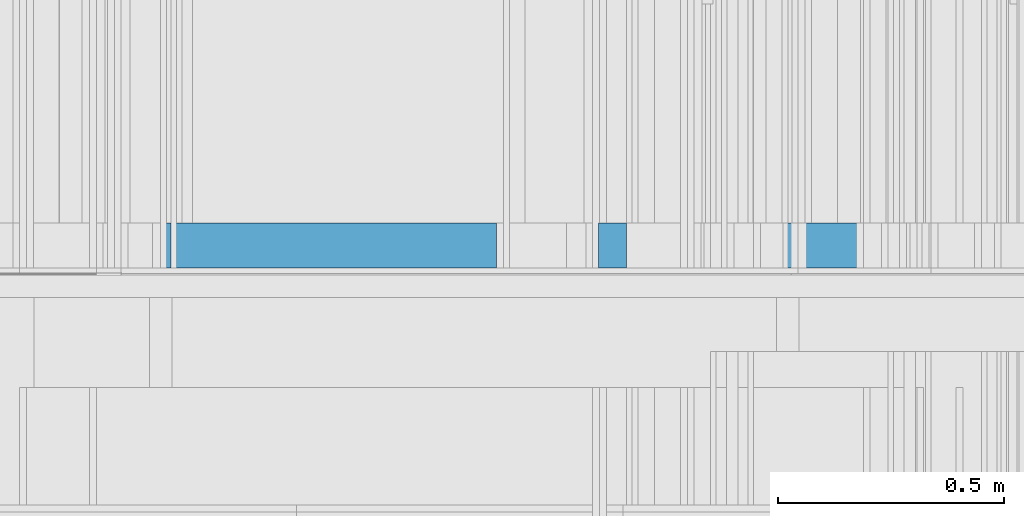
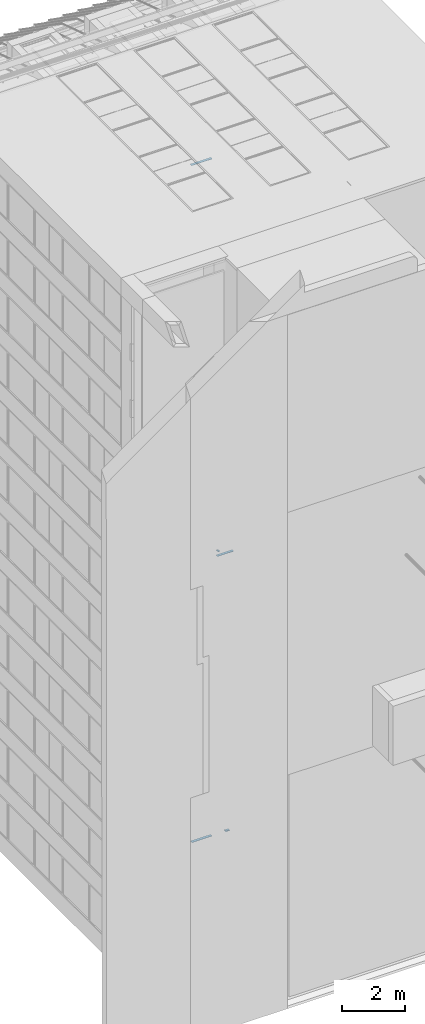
# One storey, part 201 of 583: 5 building element parts, 4 elements without a shape of their own.
"""IFC2X3 building model written with IfcOpenShell, lengths in metres."""

from ifc_helpers import new_model, entity, si_unit, converted_unit, derived_unit, money_unit, direction, frame, frame_2d, origin_with_axes, place, context, subcontext, project, spatial, polyline, rectangle, outline, extrude, material, type_object, element, aggregate, save


model = new_model("IFC2X3")

# Units and contexts
model_context = context("Model", 3, precision=1e-05, world=origin_with_axes(), true_north=direction((0.0, 1.0)))
body_context = subcontext(model_context, "Body", "Model", "MODEL_VIEW", scale=1.0)
ifc_project = project(units=[si_unit("LENGTHUNIT", "METRE"), si_unit("AREAUNIT", "SQUARE_METRE"), si_unit("VOLUMEUNIT", "CUBIC_METRE"), si_unit("ABSORBEDDOSEUNIT", "GRAY"), si_unit("AMOUNTOFSUBSTANCEUNIT", "MOLE"), si_unit("DOSEEQUIVALENTUNIT", "SIEVERT"), si_unit("ELECTRICCAPACITANCEUNIT", "FARAD"), si_unit("ELECTRICCHARGEUNIT", "COULOMB"), si_unit("ELECTRICCONDUCTANCEUNIT", "SIEMENS"), si_unit("ELECTRICCURRENTUNIT", "AMPERE"), si_unit("ELECTRICRESISTANCEUNIT", "OHM"), si_unit("ELECTRICVOLTAGEUNIT", "VOLT"), si_unit("ENERGYUNIT", "JOULE"), si_unit("FORCEUNIT", "NEWTON"), si_unit("FREQUENCYUNIT", "HERTZ"), si_unit("ILLUMINANCEUNIT", "LUX"), si_unit("INDUCTANCEUNIT", "HENRY"), si_unit("LUMINOUSFLUXUNIT", "LUMEN"), si_unit("LUMINOUSINTENSITYUNIT", "CANDELA"), si_unit("MAGNETICFLUXDENSITYUNIT", "TESLA"), si_unit("MAGNETICFLUXUNIT", "WEBER"), si_unit("MASSUNIT", "GRAM"), converted_unit("PLANEANGLEUNIT", "degree", entity("IfcReal", 0.0174532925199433), si_unit("PLANEANGLEUNIT", "RADIAN"), dimensions=[0, 0, 0, 0, 0, 0, 0]), si_unit("POWERUNIT", "WATT"), si_unit("PRESSUREUNIT", "PASCAL"), si_unit("RADIOACTIVITYUNIT", "BECQUEREL"), si_unit("SOLIDANGLEUNIT", "STERADIAN"), si_unit("THERMODYNAMICTEMPERATUREUNIT", "KELVIN"), si_unit("TIMEUNIT", "SECOND"), derived_unit("ACCELERATIONUNIT", [(si_unit("LENGTHUNIT", "METRE"), 1), (si_unit("TIMEUNIT", "SECOND"), -2)]), derived_unit("ANGULARVELOCITYUNIT", [(converted_unit("PLANEANGLEUNIT", "degree", entity("IfcReal", 0.0174532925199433), si_unit("PLANEANGLEUNIT", "RADIAN"), dimensions=[0, 0, 0, 0, 0, 0, 0]), 1), (si_unit("TIMEUNIT", "SECOND"), -1)]), derived_unit("CURVATUREUNIT", [(converted_unit("PLANEANGLEUNIT", "degree", entity("IfcReal", 0.0174532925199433), si_unit("PLANEANGLEUNIT", "RADIAN"), dimensions=[0, 0, 0, 0, 0, 0, 0]), 1), (si_unit("LENGTHUNIT", "METRE"), -1)]), derived_unit("DYNAMICVISCOSITYUNIT", [(si_unit("PRESSUREUNIT", "PASCAL"), 1), (si_unit("TIMEUNIT", "SECOND"), 1)]), derived_unit("HEATFLUXDENSITYUNIT", [(si_unit("POWERUNIT", "WATT"), 1), (si_unit("LENGTHUNIT", "METRE"), -2)]), derived_unit("HEATINGVALUEUNIT", [(si_unit("ENERGYUNIT", "JOULE"), 1), (si_unit("MASSUNIT", "GRAM"), -1)]), derived_unit("INTEGERCOUNTRATEUNIT", [(si_unit("TIMEUNIT", "SECOND"), -1)]), derived_unit("IONCONCENTRATIONUNIT", [(si_unit("MASSUNIT", "GRAM"), 1), (si_unit("VOLUMEUNIT", "CUBIC_METRE"), -1)]), derived_unit("ISOTHERMALMOISTURECAPACITYUNIT", [(si_unit("VOLUMEUNIT", "CUBIC_METRE"), 1), (si_unit("MASSUNIT", "GRAM"), -1)]), derived_unit("KINEMATICVISCOSITYUNIT", [(si_unit("AREAUNIT", "SQUARE_METRE"), 1), (si_unit("TIMEUNIT", "SECOND"), -1)]), derived_unit("LINEARFORCEUNIT", [(si_unit("FORCEUNIT", "NEWTON"), 1), (si_unit("LENGTHUNIT", "METRE"), -1)]), derived_unit("LINEARMOMENTUNIT", [(si_unit("FORCEUNIT", "NEWTON"), 1), (si_unit("LENGTHUNIT", "METRE"), -1)]), derived_unit("LINEARSTIFFNESSUNIT", [(si_unit("FORCEUNIT", "NEWTON"), 1), (si_unit("LENGTHUNIT", "METRE"), -1)]), derived_unit("LINEARVELOCITYUNIT", [(si_unit("LENGTHUNIT", "METRE"), 1), (si_unit("TIMEUNIT", "SECOND"), -1)]), derived_unit("LUMINOUSINTENSITYDISTRIBUTIONUNIT", [(si_unit("LUMINOUSINTENSITYUNIT", "CANDELA"), 1), (si_unit("LUMINOUSFLUXUNIT", "LUMEN"), -1)]), derived_unit("MASSDENSITYUNIT", [(si_unit("MASSUNIT", "GRAM"), 1), (si_unit("VOLUMEUNIT", "CUBIC_METRE"), -1)]), derived_unit("MASSFLOWRATEUNIT", [(si_unit("MASSUNIT", "GRAM"), 1), (si_unit("TIMEUNIT", "SECOND"), -1)]), derived_unit("MASSPERLENGTHUNIT", [(si_unit("MASSUNIT", "GRAM"), 1), (si_unit("LENGTHUNIT", "METRE"), -1)]), derived_unit("MODULUSOFELASTICITYUNIT", [(si_unit("FORCEUNIT", "NEWTON"), 1), (si_unit("AREAUNIT", "SQUARE_METRE"), -1)]), derived_unit("MODULUSOFLINEARSUBGRADEREACTIONUNIT", [(si_unit("FORCEUNIT", "NEWTON"), 1), (si_unit("LENGTHUNIT", "METRE"), -2)]), derived_unit("MODULUSOFROTATIONALSUBGRADEREACTIONUNIT", [(si_unit("FORCEUNIT", "NEWTON"), 1), (si_unit("LENGTHUNIT", "METRE"), 1)]), derived_unit("MODULUSOFSUBGRADEREACTIONUNIT", [(si_unit("FORCEUNIT", "NEWTON"), 1), (si_unit("VOLUMEUNIT", "CUBIC_METRE"), -1)]), derived_unit("MOISTUREDIFFUSIVITYUNIT", [(si_unit("VOLUMEUNIT", "CUBIC_METRE"), 1), (si_unit("TIMEUNIT", "SECOND"), -1)]), derived_unit("MOLECULARWEIGHTUNIT", [(si_unit("MASSUNIT", "GRAM"), 1), (si_unit("AMOUNTOFSUBSTANCEUNIT", "MOLE"), -1)]), derived_unit("PLANARFORCEUNIT", [(si_unit("FORCEUNIT", "NEWTON"), 1), (si_unit("LENGTHUNIT", "METRE"), -2)]), derived_unit("ROTATIONALFREQUENCYUNIT", [(si_unit("TIMEUNIT", "SECOND"), -1)]), derived_unit("ROTATIONALMASSUNIT", [(si_unit("MASSUNIT", "GRAM"), 1), (si_unit("LENGTHUNIT", "METRE"), 2)]), derived_unit("ROTATIONALSTIFFNESSUNIT", [(si_unit("FORCEUNIT", "NEWTON"), 1), (si_unit("LENGTHUNIT", "METRE"), 1), (converted_unit("PLANEANGLEUNIT", "degree", entity("IfcReal", 0.0174532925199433), si_unit("PLANEANGLEUNIT", "RADIAN"), dimensions=[0, 0, 0, 0, 0, 0, 0]), -1)]), derived_unit("SECTIONAREAINTEGRALUNIT", [(si_unit("LENGTHUNIT", "METRE"), 5)]), derived_unit("SECTIONMODULUSUNIT", [(si_unit("LENGTHUNIT", "METRE"), 3)]), derived_unit("SHEARMODULUSUNIT", [(si_unit("FORCEUNIT", "NEWTON"), 1), (si_unit("AREAUNIT", "SQUARE_METRE"), -1)]), derived_unit("SOUNDPOWERUNIT", [(si_unit("ENERGYUNIT", "JOULE"), 1), (si_unit("TIMEUNIT", "SECOND"), -1)]), derived_unit("SPECIFICHEATCAPACITYUNIT", [(si_unit("FORCEUNIT", "NEWTON"), 1), (si_unit("MASSUNIT", "GRAM"), -1), (si_unit("THERMODYNAMICTEMPERATUREUNIT", "KELVIN"), -1)]), derived_unit("TEMPERATUREGRADIENTUNIT", [(si_unit("THERMODYNAMICTEMPERATUREUNIT", "KELVIN"), 1), (si_unit("LENGTHUNIT", "METRE"), -1)]), derived_unit("THERMALADMITTANCEUNIT", [(si_unit("POWERUNIT", "WATT"), 1), (si_unit("AREAUNIT", "SQUARE_METRE"), -1), (si_unit("THERMODYNAMICTEMPERATUREUNIT", "KELVIN"), -1)]), derived_unit("THERMALCONDUCTANCEUNIT", [(si_unit("POWERUNIT", "WATT"), 1), (si_unit("LENGTHUNIT", "METRE"), -1), (si_unit("THERMODYNAMICTEMPERATUREUNIT", "KELVIN"), -1)]), derived_unit("THERMALEXPANSIONCOEFFICIENTUNIT", [(si_unit("THERMODYNAMICTEMPERATUREUNIT", "KELVIN"), -1)]), derived_unit("THERMALRESISTANCEUNIT", [(si_unit("AREAUNIT", "SQUARE_METRE"), 1), (si_unit("POWERUNIT", "WATT"), -1)]), derived_unit("THERMALTRANSMITTANCEUNIT", [(si_unit("POWERUNIT", "WATT"), 1), (si_unit("AREAUNIT", "SQUARE_METRE"), -1), (si_unit("THERMODYNAMICTEMPERATUREUNIT", "KELVIN"), -1)]), derived_unit("TORQUEUNIT", [(si_unit("FORCEUNIT", "NEWTON"), 1), (si_unit("LENGTHUNIT", "METRE"), 1)]), derived_unit("VAPORPERMEABILITYUNIT", [(si_unit("MASSUNIT", "GRAM"), 1), (si_unit("TIMEUNIT", "SECOND"), -1)]), derived_unit("VOLUMETRICFLOWRATEUNIT", [(si_unit("VOLUMEUNIT", "CUBIC_METRE"), 1), (si_unit("TIMEUNIT", "SECOND"), -1)]), derived_unit("WARPINGCONSTANTUNIT", [(si_unit("LENGTHUNIT", "METRE"), 6)]), derived_unit("WARPINGMOMENTUNIT", [(si_unit("FORCEUNIT", "NEWTON"), 1), (si_unit("LENGTHUNIT", "METRE"), 2)]), money_unit("GBP")], contexts=[model_context])

# Site, building, storey
site_placement = place(None, origin_with_axes())
site = spatial("IfcSite", under=ifc_project, at=site_placement, Name="Site", CompositionType="ELEMENT")
building_placement = place(site_placement, origin_with_axes())
building = spatial("IfcBuilding", under=site, at=building_placement, Name="Building01", CompositionType="ELEMENT")
storey_placement = place(building_placement, frame((0.0, 0.0, 20.78), z_axis=(0.0, 0.0, 1.0), x_axis=(1.0, 0.0, 0.0)))
storey = spatial("IfcBuildingStorey", under=building, at=storey_placement, Name="RL", CompositionType="ELEMENT", Elevation=20.78)

# Wall, building element parts
wall_type_1 = type_object("IfcWallType", Name="SHE_A-Walls_Type03a_BlockworkWall_170mm", PredefinedType="NOTDEFINED")
wall_1_placement = place(storey_placement, frame((6.263, 8.64, -9.635), z_axis=(0.0, 1.0, 0.0), x_axis=(1.0, 0.0, 0.0)))
wall_1 = element("IfcWall", 1, at=wall_1_placement, inside=storey, type_object=wall_type_1, Name="4B", ObjectType="SHE_A-Walls_Type03a_BlockworkWall_170mm")
ifc_material = material(Name="A_BSUK_Walls_Timber")
placement = place(wall_1_placement, origin_with_axes())
building_element_part_1 = element("IfcBuildingElementPart", 2, at=placement, material=ifc_material, Name="2", context=body_context, shape_type="SweptSolid", body=[
    extrude(outline(polyline([(0.572, 0.03), (-0.013, 0.03), (-0.013, 0.015), (0.587, 0.015), (0.572, 0.03)])), frame((0.0, 0.0, 0.015), z_axis=(0.0, 0.0, 1.0), x_axis=(1.0, 0.0, 0.0)), (0.0, 0.0, 1.0), 0.1),
])
building_element_part_2 = element("IfcBuildingElementPart", 3, at=placement, material=ifc_material, Name="5", context=body_context, shape_type="SweptSolid", body=[
    extrude(rectangle(XDim=0.062, YDim=0.015, at=frame_2d((0.031, -0.1625), x_axis=(-1.0, 0.0))), frame((0.0, 0.0, 0.015), z_axis=(0.0, 0.0, 1.0), x_axis=(1.0, 0.0, 0.0)), (0.0, 0.0, 1.0), 0.1),
])
aggregate(wall_1, [building_element_part_1, building_element_part_2])

# Wall, building element part
wall_type_2 = type_object("IfcWallType", Name="SHE_A-Walls_Type06d_ExternalWallInsulation_48mm", PredefinedType="NOTDEFINED")
wall_2_placement = place(storey_placement, frame((6.64418, 8.64, -20.51), z_axis=(0.0, 1.0, 0.0), x_axis=(-1.0, 0.0, 0.0)))
wall_2 = element("IfcWall", 4, at=wall_2_placement, inside=storey, type_object=wall_type_2, Name="6D", ObjectType="SHE_A-Walls_Type06d_ExternalWallInsulation_48mm")
building_element_part_3_placement = place(wall_2_placement, origin_with_axes())
building_element_part_3 = element("IfcBuildingElementPart", 5, at=building_element_part_3_placement, material=ifc_material, Name="2", context=body_context, shape_type="SweptSolid", body=[
    extrude(outline(polyline([(0.08118, 0.063), (-0.048, 0.063), (-0.048, 0.048), (0.09618, 0.048), (0.08118, 0.063)])), frame((0.0, 0.0, 0.015), z_axis=(0.0, 0.0, 1.0), x_axis=(1.0, 0.0, 0.0)), (0.0, 0.0, 1.0), 0.1),
])
aggregate(wall_2, [building_element_part_3])

wall_3_placement = place(storey_placement, frame((6.1, 8.64, -20.51), z_axis=(0.0, 1.0, 0.0), x_axis=(-1.0, 0.0, 0.0)))
wall_3 = element("IfcWall", 6, at=wall_3_placement, inside=storey, type_object=wall_type_2, Name="6D", ObjectType="SHE_A-Walls_Type06d_ExternalWallInsulation_48mm")
building_element_part_4_placement = place(wall_3_placement, origin_with_axes())
building_element_part_4 = element("IfcBuildingElementPart", 7, at=building_element_part_4_placement, material=ifc_material, Name="2", context=body_context, shape_type="SweptSolid", body=[
    extrude(outline(polyline([(0.063, 0.063), (0.048, 0.048), (0.785, 0.048), (0.785, 0.063), (0.063, 0.063)])), frame((0.0, 0.0, 0.015), z_axis=(0.0, 0.0, 1.0), x_axis=(1.0, 0.0, 0.0)), (0.0, 0.0, 1.0), 0.1),
])
aggregate(wall_3, [building_element_part_4])

wall_4_placement = place(storey_placement, frame((5.34018, 8.64, 5.93), z_axis=(0.0, 1.0, 0.0), x_axis=(1.0, 0.0, 0.0)))
wall_4 = element("IfcWall", 8, at=wall_4_placement, inside=storey, type_object=wall_type_2, Name="6D", ObjectType="SHE_A-Walls_Type06d_ExternalWallInsulation_48mm")
building_element_part_5_placement = place(wall_4_placement, origin_with_axes())
building_element_part_5 = element("IfcBuildingElementPart", 9, at=building_element_part_5_placement, material=ifc_material, Name="2", context=body_context, shape_type="SweptSolid", body=[
    extrude(outline(polyline([(0.69682, 0.063), (-0.048, 0.063), (-0.048, 0.048), (0.71182, 0.048), (0.69682, 0.063)])), frame((0.0, 0.0, 0.015), z_axis=(0.0, 0.0, 1.0), x_axis=(1.0, 0.0, 0.0)), (0.0, 0.0, 1.0), 0.1),
])
aggregate(wall_4, [building_element_part_5])

save(model, "model.ifc")
